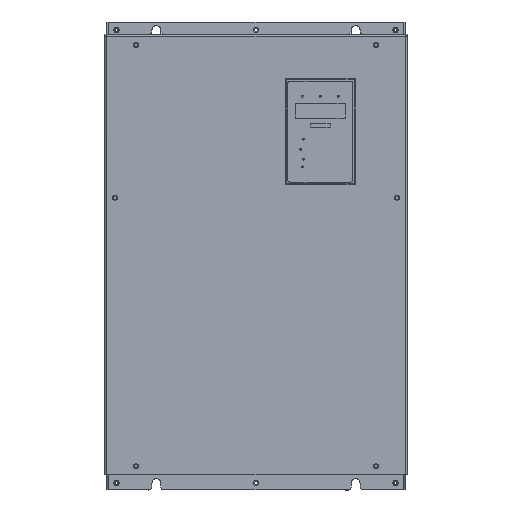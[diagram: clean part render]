
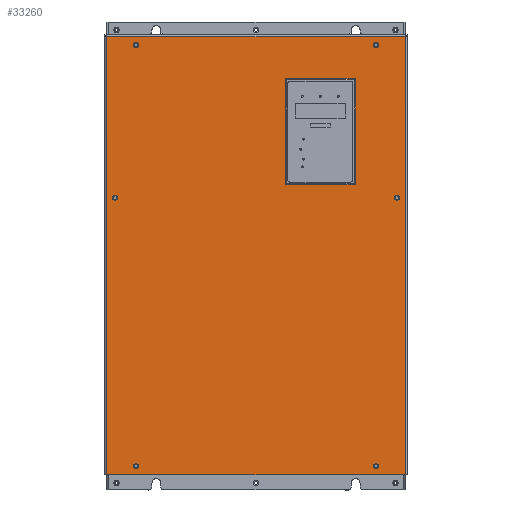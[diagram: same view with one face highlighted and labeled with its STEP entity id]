
A CAD part, top view. The second image highlights one B-rep face of the part: STEP entity #33260.
In plain terms, the highlighted planar face has unit normal (0, 0, -1).
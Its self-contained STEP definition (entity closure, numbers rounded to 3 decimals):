
#16839=DIRECTION('',(0.,-1.,0.));
#16840=VECTOR('',#16839,440.);
#16841=CARTESIAN_POINT('',(-150.,455.,240.));
#16842=LINE('',#16841,#16840);
#16849=CARTESIAN_POINT('',(-150.,455.,240.));
#16851=DIRECTION('',(1.,0.,0.));
#16852=VECTOR('',#16851,300.);
#16853=CARTESIAN_POINT('',(-150.,15.,240.));
#16854=LINE('',#16853,#16852);
#16855=CARTESIAN_POINT('',(120.5,446.5,240.));
#16856=DIRECTION('',(0.,0.,-1.));
#16857=DIRECTION('',(1.,0.,0.));
#16858=AXIS2_PLACEMENT_3D('',#16855,#16856,#16857);
#16860=CARTESIAN_POINT('',(120.5,446.5,240.));
#16861=DIRECTION('',(0.,0.,-1.));
#16862=DIRECTION('',(-1.,0.,0.));
#16863=AXIS2_PLACEMENT_3D('',#16860,#16861,#16862);
#16865=CARTESIAN_POINT('',(-120.5,446.5,240.));
#16866=DIRECTION('',(0.,0.,-1.));
#16867=DIRECTION('',(1.,0.,0.));
#16868=AXIS2_PLACEMENT_3D('',#16865,#16866,#16867);
#16870=CARTESIAN_POINT('',(-120.5,446.5,240.));
#16871=DIRECTION('',(0.,0.,-1.));
#16872=DIRECTION('',(-1.,0.,0.));
#16873=AXIS2_PLACEMENT_3D('',#16870,#16871,#16872);
#16875=CARTESIAN_POINT('',(-141.5,293.,240.));
#16876=DIRECTION('',(0.,0.,-1.));
#16877=DIRECTION('',(1.,0.,0.));
#16878=AXIS2_PLACEMENT_3D('',#16875,#16876,#16877);
#16880=CARTESIAN_POINT('',(-141.5,293.,240.));
#16881=DIRECTION('',(0.,0.,-1.));
#16882=DIRECTION('',(-1.,0.,0.));
#16883=AXIS2_PLACEMENT_3D('',#16880,#16881,#16882);
#16885=CARTESIAN_POINT('',(141.5,293.,240.));
#16886=DIRECTION('',(0.,0.,-1.));
#16887=DIRECTION('',(1.,0.,0.));
#16888=AXIS2_PLACEMENT_3D('',#16885,#16886,#16887);
#16890=CARTESIAN_POINT('',(141.5,293.,240.));
#16891=DIRECTION('',(0.,0.,-1.));
#16892=DIRECTION('',(-1.,0.,0.));
#16893=AXIS2_PLACEMENT_3D('',#16890,#16891,#16892);
#16895=CARTESIAN_POINT('',(120.5,23.5,240.));
#16896=DIRECTION('',(0.,0.,-1.));
#16897=DIRECTION('',(1.,0.,0.));
#16898=AXIS2_PLACEMENT_3D('',#16895,#16896,#16897);
#16900=CARTESIAN_POINT('',(120.5,23.5,240.));
#16901=DIRECTION('',(0.,0.,-1.));
#16902=DIRECTION('',(-1.,0.,0.));
#16903=AXIS2_PLACEMENT_3D('',#16900,#16901,#16902);
#16905=CARTESIAN_POINT('',(-120.5,23.5,240.));
#16906=DIRECTION('',(0.,0.,-1.));
#16907=DIRECTION('',(1.,0.,0.));
#16908=AXIS2_PLACEMENT_3D('',#16905,#16906,#16907);
#16910=CARTESIAN_POINT('',(-120.5,23.5,240.));
#16911=DIRECTION('',(0.,0.,-1.));
#16912=DIRECTION('',(-1.,0.,0.));
#16913=AXIS2_PLACEMENT_3D('',#16910,#16911,#16912);
#16927=DIRECTION('',(0.,1.,0.));
#16928=VECTOR('',#16927,440.);
#16929=CARTESIAN_POINT('',(150.,15.,240.));
#16930=LINE('',#16929,#16928);
#19777=DIRECTION('',(-1.,0.,0.));
#19778=VECTOR('',#19777,300.);
#19779=CARTESIAN_POINT('',(150.,455.,240.));
#19780=LINE('',#19779,#19778);
#20049=DIRECTION('',(1.,0.,0.));
#20050=VECTOR('',#20049,70.);
#20051=CARTESIAN_POINT('',(29.5,412.5,240.));
#20052=LINE('',#20051,#20050);
#20057=DIRECTION('',(0.,-1.,0.));
#20058=VECTOR('',#20057,106.);
#20059=CARTESIAN_POINT('',(99.5,412.5,240.));
#20060=LINE('',#20059,#20058);
#20069=DIRECTION('',(1.,0.,0.));
#20070=VECTOR('',#20069,70.);
#20071=CARTESIAN_POINT('',(29.5,306.5,240.));
#20072=LINE('',#20071,#20070);
#20085=DIRECTION('',(0.,-1.,0.));
#20086=VECTOR('',#20085,106.);
#20087=CARTESIAN_POINT('',(29.5,412.5,240.));
#20088=LINE('',#20087,#20086);
#27873=CARTESIAN_POINT('',(150.,15.,240.));
#27874=VERTEX_POINT('',#27873);
#27875=CARTESIAN_POINT('',(-150.,15.,240.));
#27876=VERTEX_POINT('',#27875);
#28843=VERTEX_POINT('',#16849);
#28844=CARTESIAN_POINT('',(150.,455.,240.));
#28845=VERTEX_POINT('',#28844);
#28846=CARTESIAN_POINT('',(123.,446.5,240.));
#28847=CARTESIAN_POINT('',(118.,446.5,240.));
#28848=VERTEX_POINT('',#28846);
#28849=VERTEX_POINT('',#28847);
#28850=CARTESIAN_POINT('',(-118.,446.5,240.));
#28851=CARTESIAN_POINT('',(-123.,446.5,240.));
#28852=VERTEX_POINT('',#28850);
#28853=VERTEX_POINT('',#28851);
#28854=CARTESIAN_POINT('',(-139.,293.,240.));
#28855=CARTESIAN_POINT('',(-144.,293.,240.));
#28856=VERTEX_POINT('',#28854);
#28857=VERTEX_POINT('',#28855);
#28858=CARTESIAN_POINT('',(144.,293.,240.));
#28859=CARTESIAN_POINT('',(139.,293.,240.));
#28860=VERTEX_POINT('',#28858);
#28861=VERTEX_POINT('',#28859);
#28862=CARTESIAN_POINT('',(123.,23.5,240.));
#28863=CARTESIAN_POINT('',(118.,23.5,240.));
#28864=VERTEX_POINT('',#28862);
#28865=VERTEX_POINT('',#28863);
#28866=CARTESIAN_POINT('',(-118.,23.5,240.));
#28867=CARTESIAN_POINT('',(-123.,23.5,240.));
#28868=VERTEX_POINT('',#28866);
#28869=VERTEX_POINT('',#28867);
#28870=CARTESIAN_POINT('',(29.5,412.5,240.));
#28871=CARTESIAN_POINT('',(99.5,412.5,240.));
#28872=VERTEX_POINT('',#28870);
#28873=VERTEX_POINT('',#28871);
#28874=CARTESIAN_POINT('',(29.5,306.5,240.));
#28875=VERTEX_POINT('',#28874);
#28876=CARTESIAN_POINT('',(99.5,306.5,240.));
#28877=VERTEX_POINT('',#28876);
#33201=CARTESIAN_POINT('',(0.,235.,240.));
#33202=DIRECTION('',(0.,0.,1.));
#33203=DIRECTION('',(1.,0.,0.));
#33204=AXIS2_PLACEMENT_3D('',#33201,#33202,#33203);
#33205=PLANE('',#33204);
#33206=ORIENTED_EDGE('',*,*,#31821,.T.);
#33208=ORIENTED_EDGE('',*,*,#33207,.T.);
#33210=ORIENTED_EDGE('',*,*,#33209,.T.);
#33211=ORIENTED_EDGE('',*,*,#33194,.T.);
#33212=EDGE_LOOP('',(#33206,#33208,#33210,#33211));
#33213=FACE_OUTER_BOUND('',#33212,.F.);
#33215=ORIENTED_EDGE('',*,*,#33214,.T.);
#33217=ORIENTED_EDGE('',*,*,#33216,.T.);
#33218=EDGE_LOOP('',(#33215,#33217));
#33219=FACE_BOUND('',#33218,.F.);
#33221=ORIENTED_EDGE('',*,*,#33220,.T.);
#33223=ORIENTED_EDGE('',*,*,#33222,.T.);
#33224=EDGE_LOOP('',(#33221,#33223));
#33225=FACE_BOUND('',#33224,.F.);
#33227=ORIENTED_EDGE('',*,*,#33226,.T.);
#33229=ORIENTED_EDGE('',*,*,#33228,.T.);
#33230=EDGE_LOOP('',(#33227,#33229));
#33231=FACE_BOUND('',#33230,.F.);
#33233=ORIENTED_EDGE('',*,*,#33232,.T.);
#33235=ORIENTED_EDGE('',*,*,#33234,.T.);
#33236=EDGE_LOOP('',(#33233,#33235));
#33237=FACE_BOUND('',#33236,.F.);
#33239=ORIENTED_EDGE('',*,*,#33238,.T.);
#33241=ORIENTED_EDGE('',*,*,#33240,.T.);
#33242=EDGE_LOOP('',(#33239,#33241));
#33243=FACE_BOUND('',#33242,.F.);
#33245=ORIENTED_EDGE('',*,*,#33244,.T.);
#33247=ORIENTED_EDGE('',*,*,#33246,.T.);
#33248=EDGE_LOOP('',(#33245,#33247));
#33249=FACE_BOUND('',#33248,.F.);
#33251=ORIENTED_EDGE('',*,*,#33250,.T.);
#33253=ORIENTED_EDGE('',*,*,#33252,.T.);
#33255=ORIENTED_EDGE('',*,*,#33254,.F.);
#33257=ORIENTED_EDGE('',*,*,#33256,.F.);
#33258=EDGE_LOOP('',(#33251,#33253,#33255,#33257));
#33259=FACE_BOUND('',#33258,.F.);
#16859=CIRCLE('',#16858,2.5);
#16864=CIRCLE('',#16863,2.5);
#16869=CIRCLE('',#16868,2.5);
#16874=CIRCLE('',#16873,2.5);
#16879=CIRCLE('',#16878,2.5);
#16884=CIRCLE('',#16883,2.5);
#16889=CIRCLE('',#16888,2.5);
#16894=CIRCLE('',#16893,2.5);
#16899=CIRCLE('',#16898,2.5);
#16904=CIRCLE('',#16903,2.5);
#16909=CIRCLE('',#16908,2.5);
#16914=CIRCLE('',#16913,2.5);
#31821=EDGE_CURVE('',#27876,#27874,#16854,.T.);
#33194=EDGE_CURVE('',#28843,#27876,#16842,.T.);
#33207=EDGE_CURVE('',#27874,#28845,#16930,.T.);
#33209=EDGE_CURVE('',#28845,#28843,#19780,.T.);
#33214=EDGE_CURVE('',#28848,#28849,#16859,.T.);
#33216=EDGE_CURVE('',#28849,#28848,#16864,.T.);
#33220=EDGE_CURVE('',#28852,#28853,#16869,.T.);
#33222=EDGE_CURVE('',#28853,#28852,#16874,.T.);
#33226=EDGE_CURVE('',#28856,#28857,#16879,.T.);
#33228=EDGE_CURVE('',#28857,#28856,#16884,.T.);
#33232=EDGE_CURVE('',#28860,#28861,#16889,.T.);
#33234=EDGE_CURVE('',#28861,#28860,#16894,.T.);
#33238=EDGE_CURVE('',#28864,#28865,#16899,.T.);
#33240=EDGE_CURVE('',#28865,#28864,#16904,.T.);
#33244=EDGE_CURVE('',#28868,#28869,#16909,.T.);
#33246=EDGE_CURVE('',#28869,#28868,#16914,.T.);
#33250=EDGE_CURVE('',#28872,#28873,#20052,.T.);
#33252=EDGE_CURVE('',#28873,#28877,#20060,.T.);
#33254=EDGE_CURVE('',#28875,#28877,#20072,.T.);
#33256=EDGE_CURVE('',#28872,#28875,#20088,.T.);
#33260=ADVANCED_FACE('',(#33213,#33219,#33225,#33231,#33237,#33243,#33249,
#33259),#33205,.F.);
